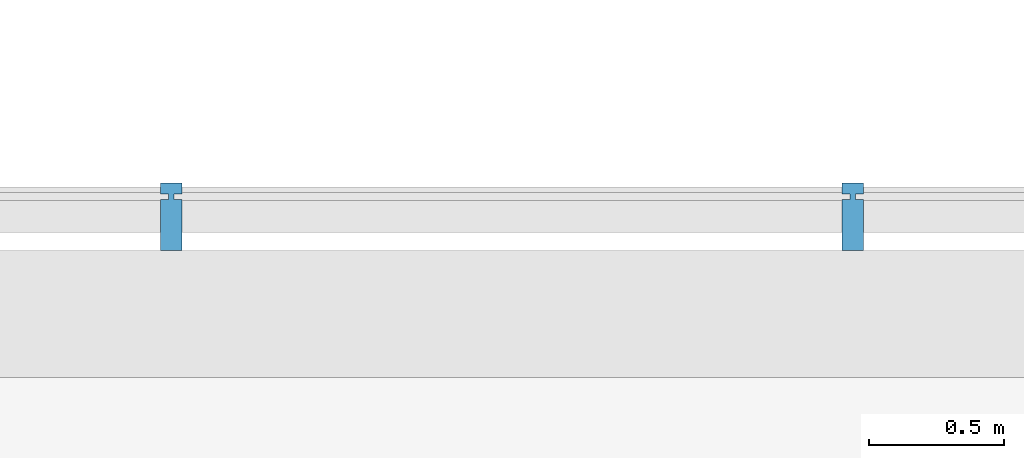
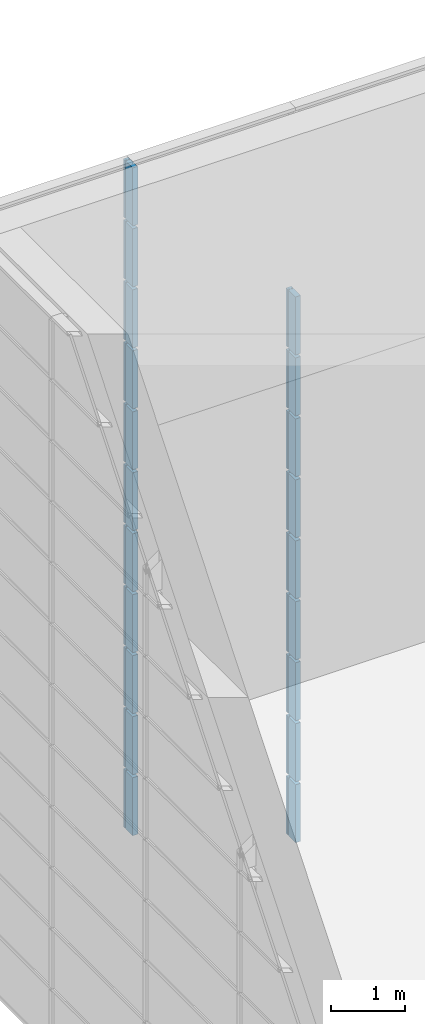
# One storey, part 85 of 105: 20 building element parts, 4 elements without a shape of their own.
"""IFC4 building model written with IfcOpenShell, lengths in millimetres."""

from ifc_helpers import new_model, entity, si_unit, converted_unit, derived_unit, direction, frame, origin_with_axes, place, context, subcontext, project, spatial, triangles, material, element, aggregate, save


model = new_model("IFC4")

# Units and contexts
model_context = context("Model", 3, precision=1e-05, world=origin_with_axes(), true_north=direction((0.0, 1.0)))
body_context = subcontext(model_context, "Body", "Model", "MODEL_VIEW")
ifc_project = project(units=[si_unit("LENGTHUNIT", "METRE", prefix="MILLI"), si_unit("AREAUNIT", "SQUARE_METRE"), si_unit("VOLUMEUNIT", "CUBIC_METRE"), converted_unit("PLANEANGLEUNIT", "DEGREE", entity("IfcLengthMeasure", 0.017453), si_unit("PLANEANGLEUNIT", "RADIAN"), dimensions=[0, 0, 0, 0, 0, 0, 0]), si_unit("SOLIDANGLEUNIT", "STERADIAN"), si_unit("MASSUNIT", "GRAM"), si_unit("TIMEUNIT", "SECOND"), si_unit("THERMODYNAMICTEMPERATUREUNIT", "DEGREE_CELSIUS"), si_unit("LUMINOUSINTENSITYUNIT", "LUMEN"), si_unit("POWERUNIT", "WATT"), derived_unit("THERMALTRANSMITTANCEUNIT", [(si_unit("POWERUNIT", "WATT"), 1), (si_unit("THERMODYNAMICTEMPERATUREUNIT", "KELVIN"), -1), (si_unit("AREAUNIT", "SQUARE_METRE"), -1)])], contexts=[model_context])

# Site, building, storey
site_placement = place(None, origin_with_axes())
site = spatial("IfcSite", under=ifc_project, at=site_placement, Name="Default Site", CompositionType="ELEMENT")
building_placement = place(site_placement, origin_with_axes())
building = spatial("IfcBuilding", under=site, at=building_placement, Name="Default Building", CompositionType="ELEMENT")
storey_placement = place(building_placement, origin_with_axes())
storey = spatial("IfcBuildingStorey", under=building, at=storey_placement, Name="OG - Story", CompositionType="ELEMENT", Elevation=0.0)

# Curtain wall, building element parts
curtain_wall_1_placement = place(storey_placement, origin_with_axes())
curtain_wall_1 = element("IfcCurtainWall", 1, at=curtain_wall_1_placement, inside=storey, Name="Fassade-004", PredefinedType="NOTDEFINED")
ifc_material = material(Name="Blech")
building_element_part_1_placement = place(curtain_wall_1_placement, frame((33014.549222, -4389.262838, 0.0), z_axis=(0.0, 0.0, 1.0), x_axis=(1.0, 0.0, 0.0)))
building_element_part_1 = element("IfcBuildingElementPart", 2, at=building_element_part_1_placement, material=ifc_material, Name="Blech", PredefinedType="NOTDEFINED", context=body_context, shape_type="Tessellation", body=[
    triangles([(3829.474, -9.999, 975.0), (3829.474, -199.999, 975.0), (3799.474, -9.999, 975.0), (3779.474, -9.999, 975.0), (3799.474, 10.0, 975.0), (3829.474, 50.0, 975.0), (3829.474, 10.0, 975.0), (3749.474, -199.999, 975.0), (3749.474, -9.999, 975.0), (3779.474, 10.0, 975.0), (3749.474, 10.0, 975.0), (3749.474, 50.0, 975.0), (3799.474, -9.999, 25.0), (3799.474, 10.0, 25.0), (3829.474, 10.0, 25.0), (3829.474, 50.0, 25.0), (3749.474, 50.0, 25.0), (3749.474, 10.0, 25.0), (3779.474, 10.0, 25.0), (3779.474, -9.999, 25.0), (3749.474, -9.999, 25.0), (3749.474, -199.999, 25.0), (3829.474, -199.999, 25.0), (3829.474, -9.999, 25.0)], [[1, 2, 3], [3, 2, 4], [3, 4, 5], [5, 4, 6], [5, 6, 7], [8, 9, 4], [8, 4, 2], [6, 4, 10], [6, 10, 11], [6, 11, 12], [3, 13, 14], [3, 14, 5], [5, 14, 15], [5, 15, 7], [15, 16, 6], [15, 6, 7], [12, 6, 16], [12, 16, 17], [18, 11, 12], [18, 12, 17], [11, 18, 19], [11, 19, 10], [4, 10, 19], [4, 19, 20], [9, 4, 20], [9, 20, 21], [9, 21, 22], [9, 22, 8], [2, 8, 22], [2, 22, 23], [1, 2, 23], [1, 23, 24], [1, 24, 13], [1, 13, 3], [15, 16, 14], [14, 16, 19], [14, 19, 13], [13, 19, 23], [13, 23, 24], [17, 18, 19], [17, 19, 16], [23, 19, 20], [23, 20, 21], [23, 21, 22]], closed=False),
])
building_element_part_2_placement = place(curtain_wall_1_placement, frame((33014.549222, -4389.262838, 0.0), z_axis=(0.0, 0.0, 1.0), x_axis=(1.0, 0.0, 0.0)))
building_element_part_2 = element("IfcBuildingElementPart", 3, at=building_element_part_2_placement, material=ifc_material, Name="Blech", PredefinedType="NOTDEFINED", context=body_context, shape_type="Tessellation", body=[
    triangles([(1303.158, -9.999, 1975.0), (1303.158, -199.999, 1975.0), (1273.158, -9.999, 1975.0), (1253.158, -9.999, 1975.0), (1273.158, 10.0, 1975.0), (1303.158, 50.0, 1975.0), (1303.158, 10.0, 1975.0), (1223.158, -199.999, 1975.0), (1223.158, -9.999, 1975.0), (1253.158, 10.0, 1975.0), (1223.158, 10.0, 1975.0), (1223.158, 50.0, 1975.0), (1273.158, -9.999, 1025.0), (1273.158, 10.0, 1025.0), (1303.158, 10.0, 1025.0), (1303.158, 50.0, 1025.0), (1223.158, 50.0, 1025.0), (1223.158, 10.0, 1025.0), (1253.158, 10.0, 1025.0), (1253.158, -9.999, 1025.0), (1223.158, -9.999, 1025.0), (1223.158, -199.999, 1025.0), (1303.158, -199.999, 1025.0), (1303.158, -9.999, 1025.0)], [[1, 2, 3], [3, 2, 4], [3, 4, 5], [5, 4, 6], [5, 6, 7], [8, 9, 4], [8, 4, 2], [6, 4, 10], [6, 10, 11], [6, 11, 12], [3, 13, 14], [3, 14, 5], [5, 14, 15], [5, 15, 7], [15, 16, 6], [15, 6, 7], [12, 6, 16], [12, 16, 17], [18, 11, 12], [18, 12, 17], [11, 18, 19], [11, 19, 10], [4, 10, 19], [4, 19, 20], [9, 4, 20], [9, 20, 21], [9, 21, 22], [9, 22, 8], [2, 8, 22], [2, 22, 23], [1, 2, 23], [1, 23, 24], [1, 24, 13], [1, 13, 3], [15, 16, 14], [14, 16, 19], [14, 19, 13], [13, 19, 23], [13, 23, 24], [17, 18, 19], [17, 19, 16], [23, 19, 20], [23, 20, 21], [23, 21, 22]], closed=False),
])
building_element_part_3_placement = place(curtain_wall_1_placement, frame((33014.549222, -4389.262838, 0.0), z_axis=(0.0, 0.0, 1.0), x_axis=(1.0, 0.0, 0.0)))
building_element_part_3 = element("IfcBuildingElementPart", 4, at=building_element_part_3_placement, material=ifc_material, Name="Blech", PredefinedType="NOTDEFINED", context=body_context, shape_type="Tessellation", body=[
    triangles([(3829.474, -9.999, 1975.0), (3829.474, -199.999, 1975.0), (3799.474, -9.999, 1975.0), (3779.474, -9.999, 1975.0), (3799.474, 10.0, 1975.0), (3829.474, 50.0, 1975.0), (3829.474, 10.0, 1975.0), (3749.474, -199.999, 1975.0), (3749.474, -9.999, 1975.0), (3779.474, 10.0, 1975.0), (3749.474, 10.0, 1975.0), (3749.474, 50.0, 1975.0), (3799.474, -9.999, 1025.0), (3799.474, 10.0, 1025.0), (3829.474, 10.0, 1025.0), (3829.474, 50.0, 1025.0), (3749.474, 50.0, 1025.0), (3749.474, 10.0, 1025.0), (3779.474, 10.0, 1025.0), (3779.474, -9.999, 1025.0), (3749.474, -9.999, 1025.0), (3749.474, -199.999, 1025.0), (3829.474, -199.999, 1025.0), (3829.474, -9.999, 1025.0)], [[1, 2, 3], [3, 2, 4], [3, 4, 5], [5, 4, 6], [5, 6, 7], [8, 9, 4], [8, 4, 2], [6, 4, 10], [6, 10, 11], [6, 11, 12], [3, 13, 14], [3, 14, 5], [5, 14, 15], [5, 15, 7], [15, 16, 6], [15, 6, 7], [12, 6, 16], [12, 16, 17], [18, 11, 12], [18, 12, 17], [11, 18, 19], [11, 19, 10], [4, 10, 19], [4, 19, 20], [9, 4, 20], [9, 20, 21], [9, 21, 22], [9, 22, 8], [2, 8, 22], [2, 22, 23], [1, 2, 23], [1, 23, 24], [1, 24, 13], [1, 13, 3], [15, 16, 14], [14, 16, 19], [14, 19, 13], [13, 19, 23], [13, 23, 24], [17, 18, 19], [17, 19, 16], [23, 19, 20], [23, 20, 21], [23, 21, 22]], closed=False),
])
building_element_part_4_placement = place(curtain_wall_1_placement, frame((33014.549222, -4389.262838, 0.0), z_axis=(0.0, 0.0, 1.0), x_axis=(1.0, 0.0, 0.0)))
building_element_part_4 = element("IfcBuildingElementPart", 5, at=building_element_part_4_placement, material=ifc_material, Name="Blech", PredefinedType="NOTDEFINED", context=body_context, shape_type="Tessellation", body=[
    triangles([(1303.158, -9.999, 2975.0), (1303.158, -199.999, 2975.0), (1273.158, -9.999, 2975.0), (1253.158, -9.999, 2975.0), (1273.158, 10.0, 2975.0), (1303.158, 50.0, 2975.0), (1303.158, 10.0, 2975.0), (1223.158, -199.999, 2975.0), (1223.158, -9.999, 2975.0), (1253.158, 10.0, 2975.0), (1223.158, 10.0, 2975.0), (1223.158, 50.0, 2975.0), (1273.158, -9.999, 2025.0), (1273.158, 10.0, 2025.0), (1303.158, 10.0, 2025.0), (1303.158, 50.0, 2025.0), (1223.158, 50.0, 2025.0), (1223.158, 10.0, 2025.0), (1253.158, 10.0, 2025.0), (1253.158, -9.999, 2025.0), (1223.158, -9.999, 2025.0), (1223.158, -199.999, 2025.0), (1303.158, -199.999, 2025.0), (1303.158, -9.999, 2025.0)], [[1, 2, 3], [3, 2, 4], [3, 4, 5], [5, 4, 6], [5, 6, 7], [8, 9, 4], [8, 4, 2], [6, 4, 10], [6, 10, 11], [6, 11, 12], [3, 13, 14], [3, 14, 5], [5, 14, 15], [5, 15, 7], [15, 16, 6], [15, 6, 7], [12, 6, 16], [12, 16, 17], [18, 11, 12], [18, 12, 17], [11, 18, 19], [11, 19, 10], [4, 10, 19], [4, 19, 20], [9, 4, 20], [9, 20, 21], [9, 21, 22], [9, 22, 8], [2, 8, 22], [2, 22, 23], [1, 2, 23], [1, 23, 24], [1, 24, 13], [1, 13, 3], [15, 16, 14], [14, 16, 19], [14, 19, 13], [13, 19, 23], [13, 23, 24], [17, 18, 19], [17, 19, 16], [23, 19, 20], [23, 20, 21], [23, 21, 22]], closed=False),
])
building_element_part_5_placement = place(curtain_wall_1_placement, frame((33014.549222, -4389.262838, 0.0), z_axis=(0.0, 0.0, 1.0), x_axis=(1.0, 0.0, 0.0)))
building_element_part_5 = element("IfcBuildingElementPart", 6, at=building_element_part_5_placement, material=ifc_material, Name="Blech", PredefinedType="NOTDEFINED", context=body_context, shape_type="Tessellation", body=[
    triangles([(3829.474, -9.999, 2975.0), (3829.474, -199.999, 2975.0), (3799.474, -9.999, 2975.0), (3779.474, -9.999, 2975.0), (3799.474, 10.0, 2975.0), (3829.474, 50.0, 2975.0), (3829.474, 10.0, 2975.0), (3749.474, -199.999, 2975.0), (3749.474, -9.999, 2975.0), (3779.474, 10.0, 2975.0), (3749.474, 10.0, 2975.0), (3749.474, 50.0, 2975.0), (3799.474, -9.999, 2025.0), (3799.474, 10.0, 2025.0), (3829.474, 10.0, 2025.0), (3829.474, 50.0, 2025.0), (3749.474, 50.0, 2025.0), (3749.474, 10.0, 2025.0), (3779.474, 10.0, 2025.0), (3779.474, -9.999, 2025.0), (3749.474, -9.999, 2025.0), (3749.474, -199.999, 2025.0), (3829.474, -199.999, 2025.0), (3829.474, -9.999, 2025.0)], [[1, 2, 3], [3, 2, 4], [3, 4, 5], [5, 4, 6], [5, 6, 7], [8, 9, 4], [8, 4, 2], [6, 4, 10], [6, 10, 11], [6, 11, 12], [3, 13, 14], [3, 14, 5], [5, 14, 15], [5, 15, 7], [15, 16, 6], [15, 6, 7], [12, 6, 16], [12, 16, 17], [18, 11, 12], [18, 12, 17], [11, 18, 19], [11, 19, 10], [4, 10, 19], [4, 19, 20], [9, 4, 20], [9, 20, 21], [9, 21, 22], [9, 22, 8], [2, 8, 22], [2, 22, 23], [1, 2, 23], [1, 23, 24], [1, 24, 13], [1, 13, 3], [15, 16, 14], [14, 16, 19], [14, 19, 13], [13, 19, 23], [13, 23, 24], [17, 18, 19], [17, 19, 16], [23, 19, 20], [23, 20, 21], [23, 21, 22]], closed=False),
])
aggregate(curtain_wall_1, [building_element_part_1, building_element_part_2, building_element_part_3, building_element_part_4, building_element_part_5])

curtain_wall_2_placement = place(storey_placement, origin_with_axes())
curtain_wall_2 = element("IfcCurtainWall", 7, at=curtain_wall_2_placement, inside=storey, Name="Fassade-004", PredefinedType="NOTDEFINED")
building_element_part_6_placement = place(curtain_wall_2_placement, frame((33014.549222, -4389.262838, 3000.0), z_axis=(0.0, 0.0, 1.0), x_axis=(1.0, 0.0, 0.0)))
building_element_part_6 = element("IfcBuildingElementPart", 8, at=building_element_part_6_placement, material=ifc_material, Name="Blech", PredefinedType="NOTDEFINED", context=body_context, shape_type="Tessellation", body=[
    triangles([(1303.158, -9.999, 975.0), (1303.158, -199.999, 975.0), (1273.158, -9.999, 975.0), (1253.158, -9.999, 975.0), (1273.158, 10.0, 975.0), (1303.158, 50.0, 975.0), (1303.158, 10.0, 975.0), (1223.158, -199.999, 975.0), (1223.158, -9.999, 975.0), (1253.158, 10.0, 975.0), (1223.158, 10.0, 975.0), (1223.158, 50.0, 975.0), (1273.158, -9.999, 25.0), (1273.158, 10.0, 25.0), (1303.158, 10.0, 25.0), (1303.158, 50.0, 25.0), (1223.158, 50.0, 25.0), (1223.158, 10.0, 25.0), (1253.158, 10.0, 25.0), (1253.158, -9.999, 25.0), (1223.158, -9.999, 25.0), (1223.158, -199.999, 25.0), (1303.158, -199.999, 25.0), (1303.158, -9.999, 25.0)], [[1, 2, 3], [3, 2, 4], [3, 4, 5], [5, 4, 6], [5, 6, 7], [8, 9, 4], [8, 4, 2], [6, 4, 10], [6, 10, 11], [6, 11, 12], [3, 13, 14], [3, 14, 5], [5, 14, 15], [5, 15, 7], [15, 16, 6], [15, 6, 7], [12, 6, 16], [12, 16, 17], [18, 11, 12], [18, 12, 17], [11, 18, 19], [11, 19, 10], [4, 10, 19], [4, 19, 20], [9, 4, 20], [9, 20, 21], [9, 21, 22], [9, 22, 8], [2, 8, 22], [2, 22, 23], [1, 2, 23], [1, 23, 24], [1, 24, 13], [1, 13, 3], [15, 16, 14], [14, 16, 19], [14, 19, 13], [13, 19, 23], [13, 23, 24], [17, 18, 19], [17, 19, 16], [23, 19, 20], [23, 20, 21], [23, 21, 22]], closed=False),
])
building_element_part_7_placement = place(curtain_wall_2_placement, frame((33014.549222, -4389.262838, 3000.0), z_axis=(0.0, 0.0, 1.0), x_axis=(1.0, 0.0, 0.0)))
building_element_part_7 = element("IfcBuildingElementPart", 9, at=building_element_part_7_placement, material=ifc_material, Name="Blech", PredefinedType="NOTDEFINED", context=body_context, shape_type="Tessellation", body=[
    triangles([(3829.474, -9.999, 975.0), (3829.474, -199.999, 975.0), (3799.474, -9.999, 975.0), (3779.474, -9.999, 975.0), (3799.474, 10.0, 975.0), (3829.474, 50.0, 975.0), (3829.474, 10.0, 975.0), (3749.474, -199.999, 975.0), (3749.474, -9.999, 975.0), (3779.474, 10.0, 975.0), (3749.474, 10.0, 975.0), (3749.474, 50.0, 975.0), (3799.474, -9.999, 25.0), (3799.474, 10.0, 25.0), (3829.474, 10.0, 25.0), (3829.474, 50.0, 25.0), (3749.474, 50.0, 25.0), (3749.474, 10.0, 25.0), (3779.474, 10.0, 25.0), (3779.474, -9.999, 25.0), (3749.474, -9.999, 25.0), (3749.474, -199.999, 25.0), (3829.474, -199.999, 25.0), (3829.474, -9.999, 25.0)], [[1, 2, 3], [3, 2, 4], [3, 4, 5], [5, 4, 6], [5, 6, 7], [8, 9, 4], [8, 4, 2], [6, 4, 10], [6, 10, 11], [6, 11, 12], [3, 13, 14], [3, 14, 5], [5, 14, 15], [5, 15, 7], [15, 16, 6], [15, 6, 7], [12, 6, 16], [12, 16, 17], [18, 11, 12], [18, 12, 17], [11, 18, 19], [11, 19, 10], [4, 10, 19], [4, 19, 20], [9, 4, 20], [9, 20, 21], [9, 21, 22], [9, 22, 8], [2, 8, 22], [2, 22, 23], [1, 2, 23], [1, 23, 24], [1, 24, 13], [1, 13, 3], [15, 16, 14], [14, 16, 19], [14, 19, 13], [13, 19, 23], [13, 23, 24], [17, 18, 19], [17, 19, 16], [23, 19, 20], [23, 20, 21], [23, 21, 22]], closed=False),
])
building_element_part_8_placement = place(curtain_wall_2_placement, frame((33014.549222, -4389.262838, 3000.0), z_axis=(0.0, 0.0, 1.0), x_axis=(1.0, 0.0, 0.0)))
building_element_part_8 = element("IfcBuildingElementPart", 10, at=building_element_part_8_placement, material=ifc_material, Name="Blech", PredefinedType="NOTDEFINED", context=body_context, shape_type="Tessellation", body=[
    triangles([(1303.158, -9.999, 1975.0), (1303.158, -199.999, 1975.0), (1273.158, -9.999, 1975.0), (1253.158, -9.999, 1975.0), (1273.158, 10.0, 1975.0), (1303.158, 50.0, 1975.0), (1303.158, 10.0, 1975.0), (1223.158, -199.999, 1975.0), (1223.158, -9.999, 1975.0), (1253.158, 10.0, 1975.0), (1223.158, 10.0, 1975.0), (1223.158, 50.0, 1975.0), (1273.158, -9.999, 1025.0), (1273.158, 10.0, 1025.0), (1303.158, 10.0, 1025.0), (1303.158, 50.0, 1025.0), (1223.158, 50.0, 1025.0), (1223.158, 10.0, 1025.0), (1253.158, 10.0, 1025.0), (1253.158, -9.999, 1025.0), (1223.158, -9.999, 1025.0), (1223.158, -199.999, 1025.0), (1303.158, -199.999, 1025.0), (1303.158, -9.999, 1025.0)], [[1, 2, 3], [3, 2, 4], [3, 4, 5], [5, 4, 6], [5, 6, 7], [8, 9, 4], [8, 4, 2], [6, 4, 10], [6, 10, 11], [6, 11, 12], [3, 13, 14], [3, 14, 5], [5, 14, 15], [5, 15, 7], [15, 16, 6], [15, 6, 7], [12, 6, 16], [12, 16, 17], [18, 11, 12], [18, 12, 17], [11, 18, 19], [11, 19, 10], [4, 10, 19], [4, 19, 20], [9, 4, 20], [9, 20, 21], [9, 21, 22], [9, 22, 8], [2, 8, 22], [2, 22, 23], [1, 2, 23], [1, 23, 24], [1, 24, 13], [1, 13, 3], [15, 16, 14], [14, 16, 19], [14, 19, 13], [13, 19, 23], [13, 23, 24], [17, 18, 19], [17, 19, 16], [23, 19, 20], [23, 20, 21], [23, 21, 22]], closed=False),
])
building_element_part_9_placement = place(curtain_wall_2_placement, frame((33014.549222, -4389.262838, 3000.0), z_axis=(0.0, 0.0, 1.0), x_axis=(1.0, 0.0, 0.0)))
building_element_part_9 = element("IfcBuildingElementPart", 11, at=building_element_part_9_placement, material=ifc_material, Name="Blech", PredefinedType="NOTDEFINED", context=body_context, shape_type="Tessellation", body=[
    triangles([(3829.474, -9.999, 1975.0), (3829.474, -199.999, 1975.0), (3799.474, -9.999, 1975.0), (3779.474, -9.999, 1975.0), (3799.474, 10.0, 1975.0), (3829.474, 50.0, 1975.0), (3829.474, 10.0, 1975.0), (3749.474, -199.999, 1975.0), (3749.474, -9.999, 1975.0), (3779.474, 10.0, 1975.0), (3749.474, 10.0, 1975.0), (3749.474, 50.0, 1975.0), (3799.474, -9.999, 1025.0), (3799.474, 10.0, 1025.0), (3829.474, 10.0, 1025.0), (3829.474, 50.0, 1025.0), (3749.474, 50.0, 1025.0), (3749.474, 10.0, 1025.0), (3779.474, 10.0, 1025.0), (3779.474, -9.999, 1025.0), (3749.474, -9.999, 1025.0), (3749.474, -199.999, 1025.0), (3829.474, -199.999, 1025.0), (3829.474, -9.999, 1025.0)], [[1, 2, 3], [3, 2, 4], [3, 4, 5], [5, 4, 6], [5, 6, 7], [8, 9, 4], [8, 4, 2], [6, 4, 10], [6, 10, 11], [6, 11, 12], [3, 13, 14], [3, 14, 5], [5, 14, 15], [5, 15, 7], [15, 16, 6], [15, 6, 7], [12, 6, 16], [12, 16, 17], [18, 11, 12], [18, 12, 17], [11, 18, 19], [11, 19, 10], [4, 10, 19], [4, 19, 20], [9, 4, 20], [9, 20, 21], [9, 21, 22], [9, 22, 8], [2, 8, 22], [2, 22, 23], [1, 2, 23], [1, 23, 24], [1, 24, 13], [1, 13, 3], [15, 16, 14], [14, 16, 19], [14, 19, 13], [13, 19, 23], [13, 23, 24], [17, 18, 19], [17, 19, 16], [23, 19, 20], [23, 20, 21], [23, 21, 22]], closed=False),
])
building_element_part_10_placement = place(curtain_wall_2_placement, frame((33014.549222, -4389.262838, 3000.0), z_axis=(0.0, 0.0, 1.0), x_axis=(1.0, 0.0, 0.0)))
building_element_part_10 = element("IfcBuildingElementPart", 12, at=building_element_part_10_placement, material=ifc_material, Name="Blech", PredefinedType="NOTDEFINED", context=body_context, shape_type="Tessellation", body=[
    triangles([(1303.158, -9.999, 2975.0), (1303.158, -199.999, 2975.0), (1273.158, -9.999, 2975.0), (1253.158, -9.999, 2975.0), (1273.158, 10.0, 2975.0), (1303.158, 50.0, 2975.0), (1303.158, 10.0, 2975.0), (1223.158, -199.999, 2975.0), (1223.158, -9.999, 2975.0), (1253.158, 10.0, 2975.0), (1223.158, 10.0, 2975.0), (1223.158, 50.0, 2975.0), (1273.158, -9.999, 2025.0), (1273.158, 10.0, 2025.0), (1303.158, 10.0, 2025.0), (1303.158, 50.0, 2025.0), (1223.158, 50.0, 2025.0), (1223.158, 10.0, 2025.0), (1253.158, 10.0, 2025.0), (1253.158, -9.999, 2025.0), (1223.158, -9.999, 2025.0), (1223.158, -199.999, 2025.0), (1303.158, -199.999, 2025.0), (1303.158, -9.999, 2025.0)], [[1, 2, 3], [3, 2, 4], [3, 4, 5], [5, 4, 6], [5, 6, 7], [8, 9, 4], [8, 4, 2], [6, 4, 10], [6, 10, 11], [6, 11, 12], [3, 13, 14], [3, 14, 5], [5, 14, 15], [5, 15, 7], [15, 16, 6], [15, 6, 7], [12, 6, 16], [12, 16, 17], [18, 11, 12], [18, 12, 17], [11, 18, 19], [11, 19, 10], [4, 10, 19], [4, 19, 20], [9, 4, 20], [9, 20, 21], [9, 21, 22], [9, 22, 8], [2, 8, 22], [2, 22, 23], [1, 2, 23], [1, 23, 24], [1, 24, 13], [1, 13, 3], [15, 16, 14], [14, 16, 19], [14, 19, 13], [13, 19, 23], [13, 23, 24], [17, 18, 19], [17, 19, 16], [23, 19, 20], [23, 20, 21], [23, 21, 22]], closed=False),
])
building_element_part_11_placement = place(curtain_wall_2_placement, frame((33014.549222, -4389.262838, 3000.0), z_axis=(0.0, 0.0, 1.0), x_axis=(1.0, 0.0, 0.0)))
building_element_part_11 = element("IfcBuildingElementPart", 13, at=building_element_part_11_placement, material=ifc_material, Name="Blech", PredefinedType="NOTDEFINED", context=body_context, shape_type="Tessellation", body=[
    triangles([(3829.474, -9.999, 2975.0), (3829.474, -199.999, 2975.0), (3799.474, -9.999, 2975.0), (3779.474, -9.999, 2975.0), (3799.474, 10.0, 2975.0), (3829.474, 50.0, 2975.0), (3829.474, 10.0, 2975.0), (3749.474, -199.999, 2975.0), (3749.474, -9.999, 2975.0), (3779.474, 10.0, 2975.0), (3749.474, 10.0, 2975.0), (3749.474, 50.0, 2975.0), (3799.474, -9.999, 2025.0), (3799.474, 10.0, 2025.0), (3829.474, 10.0, 2025.0), (3829.474, 50.0, 2025.0), (3749.474, 50.0, 2025.0), (3749.474, 10.0, 2025.0), (3779.474, 10.0, 2025.0), (3779.474, -9.999, 2025.0), (3749.474, -9.999, 2025.0), (3749.474, -199.999, 2025.0), (3829.474, -199.999, 2025.0), (3829.474, -9.999, 2025.0)], [[1, 2, 3], [3, 2, 4], [3, 4, 5], [5, 4, 6], [5, 6, 7], [8, 9, 4], [8, 4, 2], [6, 4, 10], [6, 10, 11], [6, 11, 12], [3, 13, 14], [3, 14, 5], [5, 14, 15], [5, 15, 7], [15, 16, 6], [15, 6, 7], [12, 6, 16], [12, 16, 17], [18, 11, 12], [18, 12, 17], [11, 18, 19], [11, 19, 10], [4, 10, 19], [4, 19, 20], [9, 4, 20], [9, 20, 21], [9, 21, 22], [9, 22, 8], [2, 8, 22], [2, 22, 23], [1, 2, 23], [1, 23, 24], [1, 24, 13], [1, 13, 3], [15, 16, 14], [14, 16, 19], [14, 19, 13], [13, 19, 23], [13, 23, 24], [17, 18, 19], [17, 19, 16], [23, 19, 20], [23, 20, 21], [23, 21, 22]], closed=False),
])
aggregate(curtain_wall_2, [building_element_part_6, building_element_part_7, building_element_part_8, building_element_part_9, building_element_part_10, building_element_part_11])

curtain_wall_3_placement = place(storey_placement, origin_with_axes())
curtain_wall_3 = element("IfcCurtainWall", 14, at=curtain_wall_3_placement, inside=storey, Name="Fassade-004", PredefinedType="NOTDEFINED")
building_element_part_12_placement = place(curtain_wall_3_placement, frame((33014.549222, -4389.262838, 6000.0), z_axis=(0.0, 0.0, 1.0), x_axis=(1.0, 0.0, 0.0)))
building_element_part_12 = element("IfcBuildingElementPart", 15, at=building_element_part_12_placement, material=ifc_material, Name="Blech", PredefinedType="NOTDEFINED", context=body_context, shape_type="Tessellation", body=[
    triangles([(1303.158, -9.999, 975.0), (1303.158, -199.999, 975.0), (1273.158, -9.999, 975.0), (1253.158, -9.999, 975.0), (1273.158, 10.0, 975.0), (1303.158, 50.0, 975.0), (1303.158, 10.0, 975.0), (1223.158, -199.999, 975.0), (1223.158, -9.999, 975.0), (1253.158, 10.0, 975.0), (1223.158, 10.0, 975.0), (1223.158, 50.0, 975.0), (1273.158, -9.999, 25.0), (1273.158, 10.0, 25.0), (1303.158, 10.0, 25.0), (1303.158, 50.0, 25.0), (1223.158, 50.0, 25.0), (1223.158, 10.0, 25.0), (1253.158, 10.0, 25.0), (1253.158, -9.999, 25.0), (1223.158, -9.999, 25.0), (1223.158, -199.999, 25.0), (1303.158, -199.999, 25.0), (1303.158, -9.999, 25.0)], [[1, 2, 3], [3, 2, 4], [3, 4, 5], [5, 4, 6], [5, 6, 7], [8, 9, 4], [8, 4, 2], [6, 4, 10], [6, 10, 11], [6, 11, 12], [3, 13, 14], [3, 14, 5], [5, 14, 15], [5, 15, 7], [15, 16, 6], [15, 6, 7], [12, 6, 16], [12, 16, 17], [18, 11, 12], [18, 12, 17], [11, 18, 19], [11, 19, 10], [4, 10, 19], [4, 19, 20], [9, 4, 20], [9, 20, 21], [9, 21, 22], [9, 22, 8], [2, 8, 22], [2, 22, 23], [1, 2, 23], [1, 23, 24], [1, 24, 13], [1, 13, 3], [15, 16, 14], [14, 16, 19], [14, 19, 13], [13, 19, 23], [13, 23, 24], [17, 18, 19], [17, 19, 16], [23, 19, 20], [23, 20, 21], [23, 21, 22]], closed=False),
])
building_element_part_13_placement = place(curtain_wall_3_placement, frame((33014.549222, -4389.262838, 6000.0), z_axis=(0.0, 0.0, 1.0), x_axis=(1.0, 0.0, 0.0)))
building_element_part_13 = element("IfcBuildingElementPart", 16, at=building_element_part_13_placement, material=ifc_material, Name="Blech", PredefinedType="NOTDEFINED", context=body_context, shape_type="Tessellation", body=[
    triangles([(3829.474, -9.999, 975.0), (3829.474, -199.999, 975.0), (3799.474, -9.999, 975.0), (3779.474, -9.999, 975.0), (3799.474, 10.0, 975.0), (3829.474, 50.0, 975.0), (3829.474, 10.0, 975.0), (3749.474, -199.999, 975.0), (3749.474, -9.999, 975.0), (3779.474, 10.0, 975.0), (3749.474, 10.0, 975.0), (3749.474, 50.0, 975.0), (3799.474, -9.999, 25.0), (3799.474, 10.0, 25.0), (3829.474, 10.0, 25.0), (3829.474, 50.0, 25.0), (3749.474, 50.0, 25.0), (3749.474, 10.0, 25.0), (3779.474, 10.0, 25.0), (3779.474, -9.999, 25.0), (3749.474, -9.999, 25.0), (3749.474, -199.999, 25.0), (3829.474, -199.999, 25.0), (3829.474, -9.999, 25.0)], [[1, 2, 3], [3, 2, 4], [3, 4, 5], [5, 4, 6], [5, 6, 7], [8, 9, 4], [8, 4, 2], [6, 4, 10], [6, 10, 11], [6, 11, 12], [3, 13, 14], [3, 14, 5], [5, 14, 15], [5, 15, 7], [15, 16, 6], [15, 6, 7], [12, 6, 16], [12, 16, 17], [18, 11, 12], [18, 12, 17], [11, 18, 19], [11, 19, 10], [4, 10, 19], [4, 19, 20], [9, 4, 20], [9, 20, 21], [9, 21, 22], [9, 22, 8], [2, 8, 22], [2, 22, 23], [1, 2, 23], [1, 23, 24], [1, 24, 13], [1, 13, 3], [15, 16, 14], [14, 16, 19], [14, 19, 13], [13, 19, 23], [13, 23, 24], [17, 18, 19], [17, 19, 16], [23, 19, 20], [23, 20, 21], [23, 21, 22]], closed=False),
])
building_element_part_14_placement = place(curtain_wall_3_placement, frame((33014.549222, -4389.262838, 6000.0), z_axis=(0.0, 0.0, 1.0), x_axis=(1.0, 0.0, 0.0)))
building_element_part_14 = element("IfcBuildingElementPart", 17, at=building_element_part_14_placement, material=ifc_material, Name="Blech", PredefinedType="NOTDEFINED", context=body_context, shape_type="Tessellation", body=[
    triangles([(1303.158, -9.999, 1975.0), (1303.158, -199.999, 1975.0), (1273.158, -9.999, 1975.0), (1253.158, -9.999, 1975.0), (1273.158, 10.0, 1975.0), (1303.158, 50.0, 1975.0), (1303.158, 10.0, 1975.0), (1223.158, -199.999, 1975.0), (1223.158, -9.999, 1975.0), (1253.158, 10.0, 1975.0), (1223.158, 10.0, 1975.0), (1223.158, 50.0, 1975.0), (1273.158, -9.999, 1025.0), (1273.158, 10.0, 1025.0), (1303.158, 10.0, 1025.0), (1303.158, 50.0, 1025.0), (1223.158, 50.0, 1025.0), (1223.158, 10.0, 1025.0), (1253.158, 10.0, 1025.0), (1253.158, -9.999, 1025.0), (1223.158, -9.999, 1025.0), (1223.158, -199.999, 1025.0), (1303.158, -199.999, 1025.0), (1303.158, -9.999, 1025.0)], [[1, 2, 3], [3, 2, 4], [3, 4, 5], [5, 4, 6], [5, 6, 7], [8, 9, 4], [8, 4, 2], [6, 4, 10], [6, 10, 11], [6, 11, 12], [3, 13, 14], [3, 14, 5], [5, 14, 15], [5, 15, 7], [15, 16, 6], [15, 6, 7], [12, 6, 16], [12, 16, 17], [18, 11, 12], [18, 12, 17], [11, 18, 19], [11, 19, 10], [4, 10, 19], [4, 19, 20], [9, 4, 20], [9, 20, 21], [9, 21, 22], [9, 22, 8], [2, 8, 22], [2, 22, 23], [1, 2, 23], [1, 23, 24], [1, 24, 13], [1, 13, 3], [15, 16, 14], [14, 16, 19], [14, 19, 13], [13, 19, 23], [13, 23, 24], [17, 18, 19], [17, 19, 16], [23, 19, 20], [23, 20, 21], [23, 21, 22]], closed=False),
])
building_element_part_15_placement = place(curtain_wall_3_placement, frame((33014.549222, -4389.262838, 6000.0), z_axis=(0.0, 0.0, 1.0), x_axis=(1.0, 0.0, 0.0)))
building_element_part_15 = element("IfcBuildingElementPart", 18, at=building_element_part_15_placement, material=ifc_material, Name="Blech", PredefinedType="NOTDEFINED", context=body_context, shape_type="Tessellation", body=[
    triangles([(3829.474, -9.999, 1975.0), (3829.474, -199.999, 1975.0), (3799.474, -9.999, 1975.0), (3779.474, -9.999, 1975.0), (3799.474, 10.0, 1975.0), (3829.474, 50.0, 1975.0), (3829.474, 10.0, 1975.0), (3749.474, -199.999, 1975.0), (3749.474, -9.999, 1975.0), (3779.474, 10.0, 1975.0), (3749.474, 10.0, 1975.0), (3749.474, 50.0, 1975.0), (3799.474, -9.999, 1025.0), (3799.474, 10.0, 1025.0), (3829.474, 10.0, 1025.0), (3829.474, 50.0, 1025.0), (3749.474, 50.0, 1025.0), (3749.474, 10.0, 1025.0), (3779.474, 10.0, 1025.0), (3779.474, -9.999, 1025.0), (3749.474, -9.999, 1025.0), (3749.474, -199.999, 1025.0), (3829.474, -199.999, 1025.0), (3829.474, -9.999, 1025.0)], [[1, 2, 3], [3, 2, 4], [3, 4, 5], [5, 4, 6], [5, 6, 7], [8, 9, 4], [8, 4, 2], [6, 4, 10], [6, 10, 11], [6, 11, 12], [3, 13, 14], [3, 14, 5], [5, 14, 15], [5, 15, 7], [15, 16, 6], [15, 6, 7], [12, 6, 16], [12, 16, 17], [18, 11, 12], [18, 12, 17], [11, 18, 19], [11, 19, 10], [4, 10, 19], [4, 19, 20], [9, 4, 20], [9, 20, 21], [9, 21, 22], [9, 22, 8], [2, 8, 22], [2, 22, 23], [1, 2, 23], [1, 23, 24], [1, 24, 13], [1, 13, 3], [15, 16, 14], [14, 16, 19], [14, 19, 13], [13, 19, 23], [13, 23, 24], [17, 18, 19], [17, 19, 16], [23, 19, 20], [23, 20, 21], [23, 21, 22]], closed=False),
])
building_element_part_16_placement = place(curtain_wall_3_placement, frame((33014.549222, -4389.262838, 6000.0), z_axis=(0.0, 0.0, 1.0), x_axis=(1.0, 0.0, 0.0)))
building_element_part_16 = element("IfcBuildingElementPart", 19, at=building_element_part_16_placement, material=ifc_material, Name="Blech", PredefinedType="NOTDEFINED", context=body_context, shape_type="Tessellation", body=[
    triangles([(1303.158, -9.999, 2975.0), (1303.158, -199.999, 2975.0), (1273.158, -9.999, 2975.0), (1253.158, -9.999, 2975.0), (1273.158, 10.0, 2975.0), (1303.158, 50.0, 2975.0), (1303.158, 10.0, 2975.0), (1223.158, -199.999, 2975.0), (1223.158, -9.999, 2975.0), (1253.158, 10.0, 2975.0), (1223.158, 10.0, 2975.0), (1223.158, 50.0, 2975.0), (1273.158, -9.999, 2025.0), (1273.158, 10.0, 2025.0), (1303.158, 10.0, 2025.0), (1303.158, 50.0, 2025.0), (1223.158, 50.0, 2025.0), (1223.158, 10.0, 2025.0), (1253.158, 10.0, 2025.0), (1253.158, -9.999, 2025.0), (1223.158, -9.999, 2025.0), (1223.158, -199.999, 2025.0), (1303.158, -199.999, 2025.0), (1303.158, -9.999, 2025.0)], [[1, 2, 3], [3, 2, 4], [3, 4, 5], [5, 4, 6], [5, 6, 7], [8, 9, 4], [8, 4, 2], [6, 4, 10], [6, 10, 11], [6, 11, 12], [3, 13, 14], [3, 14, 5], [5, 14, 15], [5, 15, 7], [15, 16, 6], [15, 6, 7], [12, 6, 16], [12, 16, 17], [18, 11, 12], [18, 12, 17], [11, 18, 19], [11, 19, 10], [4, 10, 19], [4, 19, 20], [9, 4, 20], [9, 20, 21], [9, 21, 22], [9, 22, 8], [2, 8, 22], [2, 22, 23], [1, 2, 23], [1, 23, 24], [1, 24, 13], [1, 13, 3], [15, 16, 14], [14, 16, 19], [14, 19, 13], [13, 19, 23], [13, 23, 24], [17, 18, 19], [17, 19, 16], [23, 19, 20], [23, 20, 21], [23, 21, 22]], closed=False),
])
building_element_part_17_placement = place(curtain_wall_3_placement, frame((33014.549222, -4389.262838, 6000.0), z_axis=(0.0, 0.0, 1.0), x_axis=(1.0, 0.0, 0.0)))
building_element_part_17 = element("IfcBuildingElementPart", 20, at=building_element_part_17_placement, material=ifc_material, Name="Blech", PredefinedType="NOTDEFINED", context=body_context, shape_type="Tessellation", body=[
    triangles([(3829.474, -9.999, 2975.0), (3829.474, -199.999, 2975.0), (3799.474, -9.999, 2975.0), (3779.474, -9.999, 2975.0), (3799.474, 10.0, 2975.0), (3829.474, 50.0, 2975.0), (3829.474, 10.0, 2975.0), (3749.474, -199.999, 2975.0), (3749.474, -9.999, 2975.0), (3779.474, 10.0, 2975.0), (3749.474, 10.0, 2975.0), (3749.474, 50.0, 2975.0), (3799.474, -9.999, 2025.0), (3799.474, 10.0, 2025.0), (3829.474, 10.0, 2025.0), (3829.474, 50.0, 2025.0), (3749.474, 50.0, 2025.0), (3749.474, 10.0, 2025.0), (3779.474, 10.0, 2025.0), (3779.474, -9.999, 2025.0), (3749.474, -9.999, 2025.0), (3749.474, -199.999, 2025.0), (3829.474, -199.999, 2025.0), (3829.474, -9.999, 2025.0)], [[1, 2, 3], [3, 2, 4], [3, 4, 5], [5, 4, 6], [5, 6, 7], [8, 9, 4], [8, 4, 2], [6, 4, 10], [6, 10, 11], [6, 11, 12], [3, 13, 14], [3, 14, 5], [5, 14, 15], [5, 15, 7], [15, 16, 6], [15, 6, 7], [12, 6, 16], [12, 16, 17], [18, 11, 12], [18, 12, 17], [11, 18, 19], [11, 19, 10], [4, 10, 19], [4, 19, 20], [9, 4, 20], [9, 20, 21], [9, 21, 22], [9, 22, 8], [2, 8, 22], [2, 22, 23], [1, 2, 23], [1, 23, 24], [1, 24, 13], [1, 13, 3], [15, 16, 14], [14, 16, 19], [14, 19, 13], [13, 19, 23], [13, 23, 24], [17, 18, 19], [17, 19, 16], [23, 19, 20], [23, 20, 21], [23, 21, 22]], closed=False),
])
aggregate(curtain_wall_3, [building_element_part_12, building_element_part_13, building_element_part_14, building_element_part_15, building_element_part_16, building_element_part_17])

curtain_wall_4_placement = place(storey_placement, origin_with_axes())
curtain_wall_4 = element("IfcCurtainWall", 21, at=curtain_wall_4_placement, inside=storey, Name="Fassade-004", PredefinedType="NOTDEFINED")
building_element_part_18_placement = place(curtain_wall_4_placement, frame((33014.549222, -4389.262838, 9000.0), z_axis=(0.0, 0.0, 1.0), x_axis=(1.0, 0.0, 0.0)))
building_element_part_18 = element("IfcBuildingElementPart", 22, at=building_element_part_18_placement, material=ifc_material, Name="Blech", PredefinedType="NOTDEFINED", context=body_context, shape_type="Tessellation", body=[
    triangles([(1303.158, -9.999, 975.0), (1303.158, -199.999, 975.0), (1273.158, -9.999, 975.0), (1253.158, -9.999, 975.0), (1273.158, 10.0, 975.0), (1303.158, 50.0, 975.0), (1303.158, 10.0, 975.0), (1223.158, -199.999, 975.0), (1223.158, -9.999, 975.0), (1253.158, 10.0, 975.0), (1223.158, 10.0, 975.0), (1223.158, 50.0, 975.0), (1273.158, -9.999, 25.0), (1273.158, 10.0, 25.0), (1303.158, 10.0, 25.0), (1303.158, 50.0, 25.0), (1223.158, 50.0, 25.0), (1223.158, 10.0, 25.0), (1253.158, 10.0, 25.0), (1253.158, -9.999, 25.0), (1223.158, -9.999, 25.0), (1223.158, -199.999, 25.0), (1303.158, -199.999, 25.0), (1303.158, -9.999, 25.0)], [[1, 2, 3], [3, 2, 4], [3, 4, 5], [5, 4, 6], [5, 6, 7], [8, 9, 4], [8, 4, 2], [6, 4, 10], [6, 10, 11], [6, 11, 12], [3, 13, 14], [3, 14, 5], [5, 14, 15], [5, 15, 7], [15, 16, 6], [15, 6, 7], [12, 6, 16], [12, 16, 17], [18, 11, 12], [18, 12, 17], [11, 18, 19], [11, 19, 10], [4, 10, 19], [4, 19, 20], [9, 4, 20], [9, 20, 21], [9, 21, 22], [9, 22, 8], [2, 8, 22], [2, 22, 23], [1, 2, 23], [1, 23, 24], [1, 24, 13], [1, 13, 3], [15, 16, 14], [14, 16, 19], [14, 19, 13], [13, 19, 23], [13, 23, 24], [17, 18, 19], [17, 19, 16], [23, 19, 20], [23, 20, 21], [23, 21, 22]], closed=False),
])
building_element_part_19_placement = place(curtain_wall_4_placement, frame((33014.549222, -4389.262838, 9000.0), z_axis=(0.0, 0.0, 1.0), x_axis=(1.0, 0.0, 0.0)))
building_element_part_19 = element("IfcBuildingElementPart", 23, at=building_element_part_19_placement, material=ifc_material, Name="Blech", PredefinedType="NOTDEFINED", context=body_context, shape_type="Tessellation", body=[
    triangles([(1303.158, -9.999, 1975.0), (1303.158, -199.999, 1975.0), (1273.158, -9.999, 1975.0), (1253.158, -9.999, 1975.0), (1273.158, 10.0, 1975.0), (1303.158, 50.0, 1975.0), (1303.158, 10.0, 1975.0), (1223.158, -199.999, 1975.0), (1223.158, -9.999, 1975.0), (1253.158, 10.0, 1975.0), (1223.158, 10.0, 1975.0), (1223.158, 50.0, 1975.0), (1273.158, -9.999, 1025.0), (1273.158, 10.0, 1025.0), (1303.158, 10.0, 1025.0), (1303.158, 50.0, 1025.0), (1223.158, 50.0, 1025.0), (1223.158, 10.0, 1025.0), (1253.158, 10.0, 1025.0), (1253.158, -9.999, 1025.0), (1223.158, -9.999, 1025.0), (1223.158, -199.999, 1025.0), (1303.158, -199.999, 1025.0), (1303.158, -9.999, 1025.0)], [[1, 2, 3], [3, 2, 4], [3, 4, 5], [5, 4, 6], [5, 6, 7], [8, 9, 4], [8, 4, 2], [6, 4, 10], [6, 10, 11], [6, 11, 12], [3, 13, 14], [3, 14, 5], [5, 14, 15], [5, 15, 7], [15, 16, 6], [15, 6, 7], [12, 6, 16], [12, 16, 17], [18, 11, 12], [18, 12, 17], [11, 18, 19], [11, 19, 10], [4, 10, 19], [4, 19, 20], [9, 4, 20], [9, 20, 21], [9, 21, 22], [9, 22, 8], [2, 8, 22], [2, 22, 23], [1, 2, 23], [1, 23, 24], [1, 24, 13], [1, 13, 3], [15, 16, 14], [14, 16, 19], [14, 19, 13], [13, 19, 23], [13, 23, 24], [17, 18, 19], [17, 19, 16], [23, 19, 20], [23, 20, 21], [23, 21, 22]], closed=False),
])
building_element_part_20_placement = place(curtain_wall_4_placement, frame((33014.549222, -4389.262838, 9000.0), z_axis=(0.0, 0.0, 1.0), x_axis=(1.0, 0.0, 0.0)))
building_element_part_20 = element("IfcBuildingElementPart", 24, at=building_element_part_20_placement, material=ifc_material, Name="Blech", PredefinedType="NOTDEFINED", context=body_context, shape_type="Tessellation", body=[
    triangles([(1303.158, -9.999, 2975.0), (1303.158, -199.999, 2975.0), (1273.158, -9.999, 2975.0), (1253.158, -9.999, 2975.0), (1273.158, 10.0, 2975.0), (1303.158, 50.0, 2975.0), (1303.158, 10.0, 2975.0), (1223.158, -199.999, 2975.0), (1223.158, -9.999, 2975.0), (1253.158, 10.0, 2975.0), (1223.158, 10.0, 2975.0), (1223.158, 50.0, 2975.0), (1273.158, -9.999, 2025.0), (1273.158, 10.0, 2025.0), (1303.158, 10.0, 2025.0), (1303.158, 50.0, 2025.0), (1223.158, 50.0, 2025.0), (1223.158, 10.0, 2025.0), (1253.158, 10.0, 2025.0), (1253.158, -9.999, 2025.0), (1223.158, -9.999, 2025.0), (1223.158, -199.999, 2025.0), (1303.158, -199.999, 2025.0), (1303.158, -9.999, 2025.0)], [[1, 2, 3], [3, 2, 4], [3, 4, 5], [5, 4, 6], [5, 6, 7], [8, 9, 4], [8, 4, 2], [6, 4, 10], [6, 10, 11], [6, 11, 12], [3, 13, 14], [3, 14, 5], [5, 14, 15], [5, 15, 7], [15, 16, 6], [15, 6, 7], [12, 6, 16], [12, 16, 17], [18, 11, 12], [18, 12, 17], [11, 18, 19], [11, 19, 10], [4, 10, 19], [4, 19, 20], [9, 4, 20], [9, 20, 21], [9, 21, 22], [9, 22, 8], [2, 8, 22], [2, 22, 23], [1, 2, 23], [1, 23, 24], [1, 24, 13], [1, 13, 3], [15, 16, 14], [14, 16, 19], [14, 19, 13], [13, 19, 23], [13, 23, 24], [17, 18, 19], [17, 19, 16], [23, 19, 20], [23, 20, 21], [23, 21, 22]], closed=False),
])
aggregate(curtain_wall_4, [building_element_part_18, building_element_part_19, building_element_part_20])

save(model, "model.ifc")
